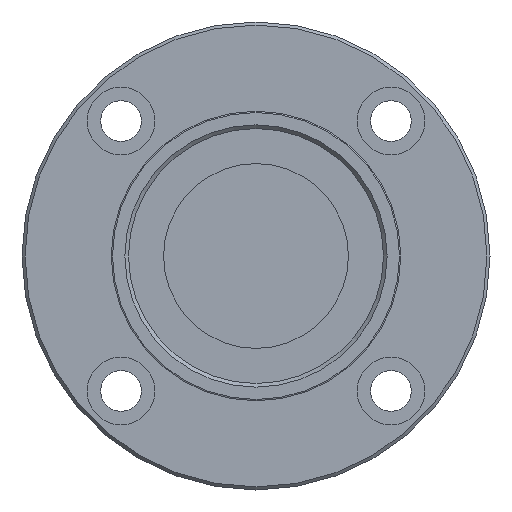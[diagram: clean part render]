
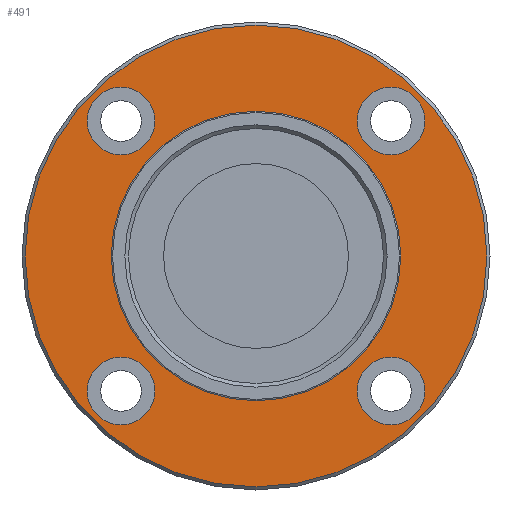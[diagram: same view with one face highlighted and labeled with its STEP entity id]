
A CAD part, front view. The second image highlights one B-rep face of the part: STEP entity #491.
In plain terms, the highlighted planar face has unit normal (0, -1, 0).
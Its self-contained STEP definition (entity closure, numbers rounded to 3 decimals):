
#101=CARTESIAN_POINT('',(-16.42,-61.5,-21.92));
#102=VERTEX_POINT('',#101);
#103=CARTESIAN_POINT('',(-21.92,-61.5,-21.92));
#104=DIRECTION('',(0.0,1.0,0.0));
#105=DIRECTION('',(1.0,0.0,0.0));
#106=AXIS2_PLACEMENT_3D('',#103,#104,#105);
#107=CIRCLE('',#106,5.5);
#108=EDGE_CURVE('',#102,#102,#107,.T.);
#169=CARTESIAN_POINT('',(27.42,-61.5,-21.92));
#170=VERTEX_POINT('',#169);
#171=CARTESIAN_POINT('',(21.92,-61.5,-21.92));
#172=DIRECTION('',(0.0,1.0,0.0));
#173=DIRECTION('',(1.0,0.0,0.0));
#174=AXIS2_PLACEMENT_3D('',#171,#172,#173);
#175=CIRCLE('',#174,5.5);
#176=EDGE_CURVE('',#170,#170,#175,.T.);
#237=CARTESIAN_POINT('',(27.42,-61.5,21.92));
#238=VERTEX_POINT('',#237);
#239=CARTESIAN_POINT('',(21.92,-61.5,21.92));
#240=DIRECTION('',(0.0,1.0,0.0));
#241=DIRECTION('',(1.0,0.0,0.0));
#242=AXIS2_PLACEMENT_3D('',#239,#240,#241);
#243=CIRCLE('',#242,5.5);
#244=EDGE_CURVE('',#238,#238,#243,.T.);
#305=CARTESIAN_POINT('',(-16.42,-61.5,21.92));
#306=VERTEX_POINT('',#305);
#307=CARTESIAN_POINT('',(-21.92,-61.5,21.92));
#308=DIRECTION('',(0.0,1.0,0.0));
#309=DIRECTION('',(1.0,0.0,0.0));
#310=AXIS2_PLACEMENT_3D('',#307,#308,#309);
#311=CIRCLE('',#310,5.5);
#312=EDGE_CURVE('',#306,#306,#311,.T.);
#345=CARTESIAN_POINT('',(23.5,-61.5,0.0));
#346=VERTEX_POINT('',#345);
#347=CARTESIAN_POINT('',(0.0,-61.5,0.0));
#348=DIRECTION('',(0.0,-1.0,0.0));
#349=DIRECTION('',(1.0,0.0,0.0));
#350=AXIS2_PLACEMENT_3D('',#347,#348,#349);
#351=CIRCLE('',#350,23.5);
#352=EDGE_CURVE('',#346,#346,#351,.T.);
#453=CARTESIAN_POINT('',(37.5,-61.5,0.0));
#454=VERTEX_POINT('',#453);
#455=CARTESIAN_POINT('',(0.0,-61.5,0.0));
#456=DIRECTION('',(0.0,-1.0,0.0));
#457=DIRECTION('',(1.0,0.0,0.0));
#458=AXIS2_PLACEMENT_3D('',#455,#456,#457);
#459=CIRCLE('',#458,37.5);
#460=EDGE_CURVE('',#454,#454,#459,.T.);
#468=CARTESIAN_POINT('',(30.5,-61.5,0.0));
#469=DIRECTION('',(0.0,-1.0,0.0));
#470=DIRECTION('',(0.0,0.0,-1.0));
#471=AXIS2_PLACEMENT_3D('',#468,#469,#470);
#472=PLANE('',#471);
#473=ORIENTED_EDGE('',*,*,#460,.T.);
#474=EDGE_LOOP('',(#473));
#475=FACE_OUTER_BOUND('',#474,.T.);
#476=ORIENTED_EDGE('',*,*,#108,.T.);
#477=EDGE_LOOP('',(#476));
#478=FACE_BOUND('',#477,.T.);
#479=ORIENTED_EDGE('',*,*,#176,.T.);
#480=EDGE_LOOP('',(#479));
#481=FACE_BOUND('',#480,.T.);
#482=ORIENTED_EDGE('',*,*,#244,.T.);
#483=EDGE_LOOP('',(#482));
#484=FACE_BOUND('',#483,.T.);
#485=ORIENTED_EDGE('',*,*,#312,.T.);
#486=EDGE_LOOP('',(#485));
#487=FACE_BOUND('',#486,.T.);
#488=ORIENTED_EDGE('',*,*,#352,.F.);
#489=EDGE_LOOP('',(#488));
#490=FACE_BOUND('',#489,.T.);
#491=ADVANCED_FACE('',(#475,#478,#481,#484,#487,#490),#472,.T.);
